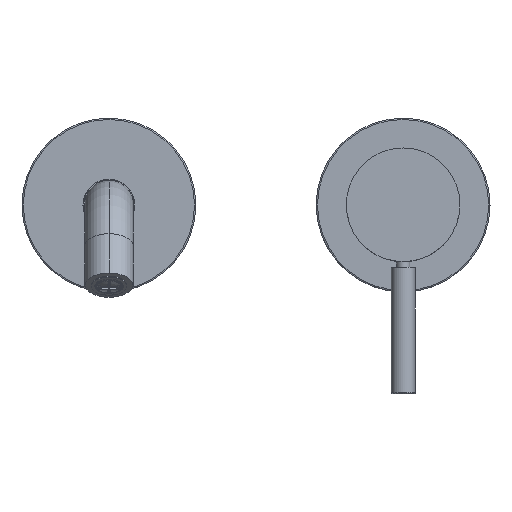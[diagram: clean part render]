
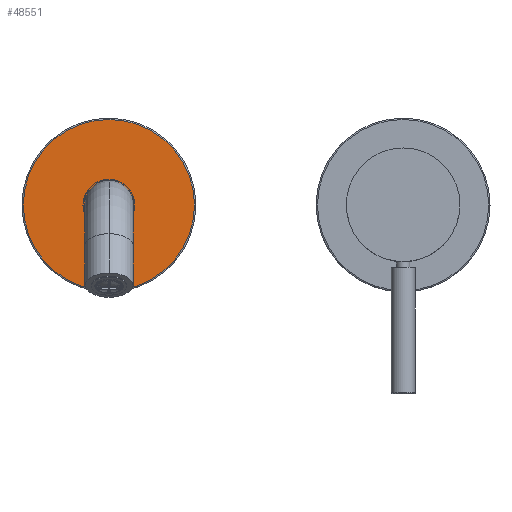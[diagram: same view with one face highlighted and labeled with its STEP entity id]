
A CAD part, top view. The second image highlights one B-rep face of the part: STEP entity #48551.
In plain terms, the highlighted planar face has unit normal (0, 0, 1).
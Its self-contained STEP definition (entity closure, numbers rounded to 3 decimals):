
#33964=CARTESIAN_POINT('',(-110.002,0.,53.936));
#33965=DIRECTION('',(0.,0.,-1.));
#33966=DIRECTION('',(-1.,0.,0.));
#33967=AXIS2_PLACEMENT_3D('',#33964,#33965,#33966);
#33969=CARTESIAN_POINT('',(-110.002,0.,53.936));
#33970=DIRECTION('',(0.,0.,-1.));
#33971=DIRECTION('',(1.,0.,0.));
#33972=AXIS2_PLACEMENT_3D('',#33969,#33970,#33971);
#33974=CARTESIAN_POINT('',(-110.002,0.,53.936));
#33975=DIRECTION('',(0.,0.,-1.));
#33976=DIRECTION('',(0.,-1.,0.));
#33977=AXIS2_PLACEMENT_3D('',#33974,#33975,#33976);
#33988=CARTESIAN_POINT('',(-110.002,0.,53.936));
#33989=DIRECTION('',(0.,0.,-1.));
#33990=DIRECTION('',(0.,1.,0.));
#33991=AXIS2_PLACEMENT_3D('',#33988,#33989,#33990);
#43628=CARTESIAN_POINT('',(-142.002,0.,53.946));
#43629=CARTESIAN_POINT('',(-78.002,0.,53.925));
#43630=VERTEX_POINT('',#43628);
#43631=VERTEX_POINT('',#43629);
#47280=CARTESIAN_POINT('',(-110.002,-9.,53.936));
#47281=CARTESIAN_POINT('',(-110.002,9.,53.936));
#47282=VERTEX_POINT('',#47280);
#47283=VERTEX_POINT('',#47281);
#48536=CARTESIAN_POINT('',(-110.002,0.,53.936));
#48537=DIRECTION('',(0.,0.,1.));
#48538=DIRECTION('',(1.,0.,0.));
#48539=AXIS2_PLACEMENT_3D('',#48536,#48537,#48538);
#48540=PLANE('',#48539);
#48541=ORIENTED_EDGE('',*,*,#48482,.T.);
#48542=ORIENTED_EDGE('',*,*,#48504,.T.);
#48543=EDGE_LOOP('',(#48541,#48542));
#48544=FACE_OUTER_BOUND('',#48543,.F.);
#48546=ORIENTED_EDGE('',*,*,#48545,.F.);
#48548=ORIENTED_EDGE('',*,*,#48547,.F.);
#48549=EDGE_LOOP('',(#48546,#48548));
#48550=FACE_BOUND('',#48549,.F.);
#33968=CIRCLE('',#33967,32.);
#33973=CIRCLE('',#33972,32.);
#33978=CIRCLE('',#33977,9.);
#33992=CIRCLE('',#33991,9.);
#48482=EDGE_CURVE('',#43630,#43631,#33968,.T.);
#48504=EDGE_CURVE('',#43631,#43630,#33973,.T.);
#48545=EDGE_CURVE('',#47282,#47283,#33978,.T.);
#48547=EDGE_CURVE('',#47283,#47282,#33992,.T.);
#48551=ADVANCED_FACE('',(#48544,#48550),#48540,.T.);
